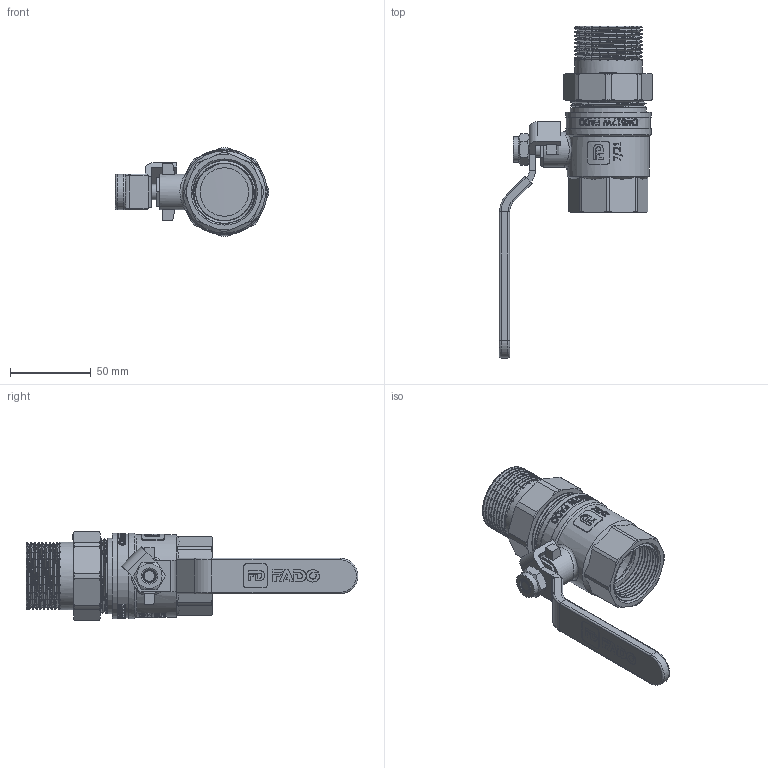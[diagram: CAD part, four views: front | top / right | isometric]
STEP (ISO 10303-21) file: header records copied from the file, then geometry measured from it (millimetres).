
FILE_DESCRIPTION(/* description */ (''),/* implementation_level */ '2;1');
FILE_NAME(/* name */ 'C:\Users\Doom\Desktop\Фадотех\KA4 08.11.2021\КА4 08.11.21.stp',/* time_stamp */ '2021-12-03T16:03:32+02:00',/* author */ ('Doom'),/* organization */ (''),/* preprocessor_version */ 'ST-DEVELOPER v18',/* originating_system */ 'Autodesk Inventor 2020',/* authorisation */ '');
FILE_SCHEMA (('AUTOMOTIVE_DESIGN { 1 0 10303 214 3 1 1 }'));
Length unit declared in the file: millimetre
Products named in the file (10): КА4 08.11.21; 5010501048005; KA2 08.11.2021; 22208287; KA1 08.11.2021; KA2 08.11.2021_1; KA1 08.11.2021_1; KA2 08.11.2021_2; 20133306; DIN 985 - M10
Assembly tree (9 placements, depth 2):
  КА4 08.11.21
    5010501048005
    KA2 08.11.2021
    22208287
    KA1 08.11.2021
    KA2 08.11.2021_1
    KA1 08.11.2021_1
    KA2 08.11.2021_2
    20133306
    DIN 985 - M10
Bounding box: 95.04 x 205.75 x 54.99 mm (x, y, z)
Volume: 121102.2 mm3; surface area: 119444 mm2
Topology: 19 solids, 19 shells, 2858 faces, 8236 edges, 5503 vertices
Faces by surface type: plane 1598, bspline 766, cylinder 428, cone 52, torus 11, sphere 3
Full cylindrical faces by diameter (mm): 6.517 x2, 8 x9, 8.376 x1, 9.5 x1, 11.027 x1, 12 x1, 12.2 x1, 14 x1, 15.276 x5, 15.6 x1, 15.8 x1, 16.517 x2, 17 x1, 17.5 x2, 18 x4, 22 x1, 23 x1, 30 x3, 33 x1, 33.2 x1, 34.5 x1, 35.576 x6, 37 x1, 38 x1, 38.476 x2, 39 x2, 39.5 x1, 40 x1, 41 x1, 41.076 x5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
Entity records: 154815 total; most frequent: CARTESIAN_POINT 89589, ORIENTED_EDGE 16438, DIRECTION 8876, EDGE_CURVE 8219, VERTEX_POINT 5495, B_SPLINE_CURVE_WITH_KNOTS 4215, LINE 3074, VECTOR 3074
